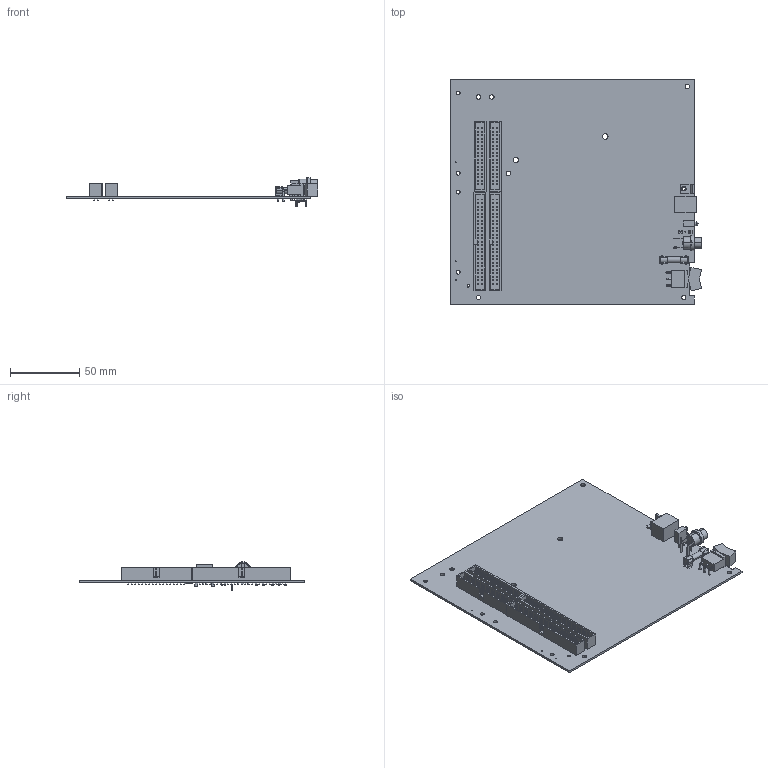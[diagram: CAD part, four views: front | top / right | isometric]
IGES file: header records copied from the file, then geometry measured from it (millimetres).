
Start section:  PTC IGES file: cu_usb_oem_6289.igs
Global section: file name: cu_usb_oem_6289.igs; native system: Pro/ENGINEER by Parametric Technology Corporation; preprocessor: 2010230; author: dkendric; organization: Unknown; date: 20110815.125710; units: inch
Bounding box: 181.99 x 162.56 x 20.88 mm (x, y, z)
Surface area: 74934.7 mm2 (no closed solid volume)
Topology: 0 solids, 0 shells, 2183 faces, 10756 edges, 10746 vertices
Faces by surface type: bspline 1995, revolution 188
